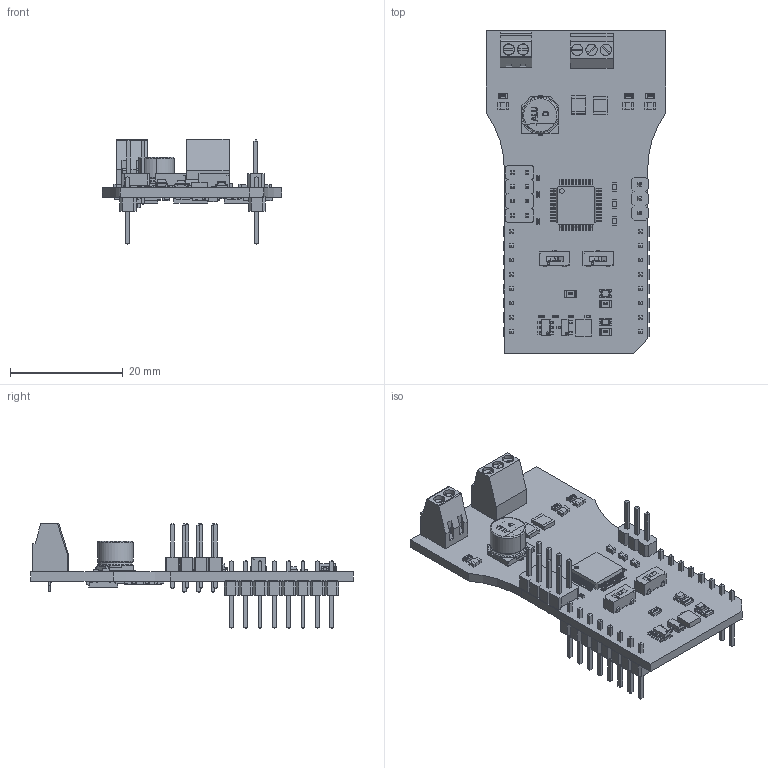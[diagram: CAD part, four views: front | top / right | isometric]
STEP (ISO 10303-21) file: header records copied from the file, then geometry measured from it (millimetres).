
FILE_DESCRIPTION(('Open CASCADE Model'),'2;1');
FILE_NAME('Open CASCADE Shape Model','2026-03-02T11:39:23',('Author'),( 'Open CASCADE'),'Open CASCADE STEP processor 6.8','Open CASCADE 6.8' ,'Unknown');
FILE_SCHEMA(('AUTOMOTIVE_DESIGN { 1 0 10303 214 1 1 1 1 }'));
Length unit declared in the file: millimetre
Products named in the file (111): PCB; Board; C24; User_Library-ALU-D; User_Library-ALU-D_Fuss_1; User_Library-ALU-D_Pins_1; User_Library-ALU-D_K_X_F6rper_1; User_Library-ALU-D_Beschriftung_1; C14; User_Library-SMD_CAPACITOR0805; R20; User_Library-R_0805; SW2; Cas-120a1; User_Library-cas-120a1_cas-120_body; User_Library-cas-120a1_cas-120_actuator; User_Library-cas-120a1_lead; R19; User_Library-R_0402; Q4; 1148250592; Q3; Q2; C23; C22; User_Library-SMD_CAPACITOR0402; C21; R26; User_Library-R_0603; R25; R24; R23; R22; J1; User_Library-Pin_Header_Strip_1x3; CN1; CON_TERMINAL_2.54_1x3_PHO_1725669; C18; User_Library-SMD_CAPACITOR0603; C17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
Assembly tree (214 placements, depth 7):
  PCB
    Board
    C24
      User_Library-ALU-D
        User_Library-ALU-D_Fuss_1
        User_Library-ALU-D_Pins_1
        User_Library-ALU-D_K_X_F6rper_1
        User_Library-ALU-D_Beschriftung_1
    C14
      User_Library-SMD_CAPACITOR0805
    R20
      User_Library-R_0805
    SW2
      Cas-120a1
        User_Library-cas-120a1_cas-120_body
        User_Library-cas-120a1_cas-120_actuator
        User_Library-cas-120a1_lead  x3
    R19
      User_Library-R_0402
    Q4
      1148250592
    Q3
      1148250592
    Q2
      1148250592
    C23
      User_Library-SMD_CAPACITOR0805
    C22
      User_Library-SMD_CAPACITOR0402
    C21
      User_Library-SMD_CAPACITOR0805
    R26
      User_Library-R_0603
    R25
      User_Library-R_0603
    R24
      User_Library-R_0603
    R23
      User_Library-R_0603
    R22
      User_Library-R_0603
    J1
      User_Library-Pin_Header_Strip_1x3
    CN1
      CON_TERMINAL_2.54_1x3_PHO_1725669
    C18
      User_Library-SMD_CAPACITOR0603
    C17
      User_Library-SMD_CAPACITOR0603
    C16
      User_Library-SMD_CAPACITOR1206
    C15
      User_Library-SMD_CAPACITOR0805
    SW1
      Cas-120a1
        User_Library-cas-120a1_cas-120_body
        User_Library-cas-120a1_cas-120_actuator
        User_Library-cas-120a1_lead  x3
    R14
      User_Library-R_0402
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Bounding box: 31.75 x 57.15 x 18.75 mm (x, y, z)
Volume: 4222.5 mm3; surface area: 8280.8 mm2
Topology: 276 solids, 276 shells, 7024 faces, 17780 edges, 11406 vertices
Faces by surface type: plane 4980, bspline 970, cylinder 882, sphere 192
Entity records: 81966 total; most frequent: CARTESIAN_POINT 20581, ORIENTED_EDGE 10564, DIRECTION 9774, EDGE_CURVE 5282, LINE 4288, VECTOR 4288, VERTEX_POINT 3408, AXIS2_PLACEMENT_3D 2743
